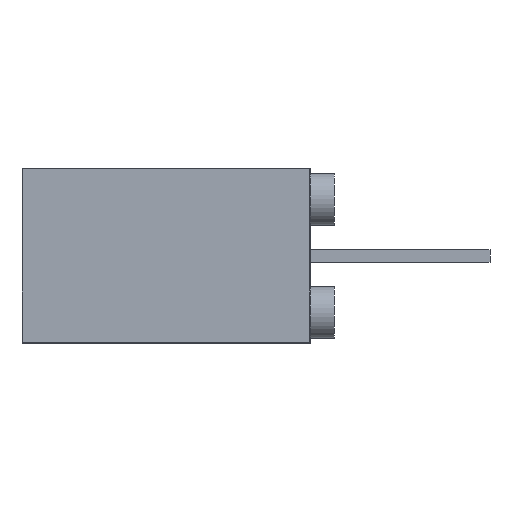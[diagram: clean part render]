
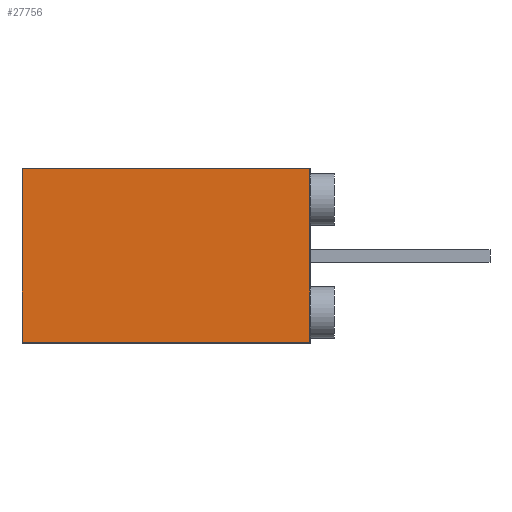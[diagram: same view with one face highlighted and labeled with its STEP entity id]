
A CAD part, left-side view. The second image highlights one B-rep face of the part: STEP entity #27756.
In plain terms, the highlighted planar face has unit normal (-1, 0.004, 0).
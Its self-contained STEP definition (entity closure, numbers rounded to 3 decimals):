
#27684 = VERTEX_POINT ( 'NONE', #37767 ) ;
#27714 = EDGE_CURVE ( 'NONE', #27715, #27684, #37804, .T. ) ;
#27715 = VERTEX_POINT ( 'NONE', #37800 ) ;
#27732 = EDGE_CURVE ( 'NONE', #27861, #27874, #37842, .T. ) ;
#27751 = EDGE_CURVE ( 'NONE', #27874, #27715, #37828, .T. ) ;
#27756 = ADVANCED_FACE ( 'NONE', ( #37822 ), #37824, .T. ) ;
#27760 = ORIENTED_EDGE ( 'NONE', *, *, #27714, .T. ) ;
#27761 = ORIENTED_EDGE ( 'NONE', *, *, #27863, .T. ) ;
#27762 = ORIENTED_EDGE ( 'NONE', *, *, #27732, .T. ) ;
#27764 = ORIENTED_EDGE ( 'NONE', *, *, #27751, .T. ) ;
#27861 = VERTEX_POINT ( 'NONE', #38013 ) ;
#27863 = EDGE_CURVE ( 'NONE', #27684, #27861, #38012, .T. ) ;
#27874 = VERTEX_POINT ( 'NONE', #37993 ) ;
#37767 = CARTESIAN_POINT ( 'NONE',  ( -7.55, 0.002, -1.823 ) ) ;
#37800 = CARTESIAN_POINT ( 'NONE',  ( -7.523, 6.094, -1.823 ) ) ;
#37801 = DIRECTION ( 'NONE',  ( -0.004, -1., 0. ) ) ;
#37802 = VECTOR ( 'NONE', #37801, 1000. ) ;
#37803 = CARTESIAN_POINT ( 'NONE',  ( -7.523, 6.094, -1.823 ) ) ;
#37804 = LINE ( 'NONE', #37803, #37802 ) ;
#37822 = FACE_OUTER_BOUND ( 'NONE', #47646, .T. ) ;
#37823 = AXIS2_PLACEMENT_3D ( 'NONE', #37887, #37886, #37885 ) ;
#37824 = PLANE ( 'NONE',  #37823 ) ;
#37825 = DIRECTION ( 'NONE',  ( 0., 0., -1. ) ) ;
#37826 = VECTOR ( 'NONE', #37825, 1000. ) ;
#37827 = CARTESIAN_POINT ( 'NONE',  ( -7.523, 6.094, -1.823 ) ) ;
#37828 = LINE ( 'NONE', #37827, #37826 ) ;
#37839 = DIRECTION ( 'NONE',  ( 0.004, 1., 0. ) ) ;
#37840 = VECTOR ( 'NONE', #37839, 1000. ) ;
#37841 = CARTESIAN_POINT ( 'NONE',  ( -7.523, 6.094, 1.85 ) ) ;
#37842 = LINE ( 'NONE', #37841, #37840 ) ;
#37885 = DIRECTION ( 'NONE',  ( -0.004, -1., 0. ) ) ;
#37886 = DIRECTION ( 'NONE',  ( -1., 0.004, 0. ) ) ;
#37887 = CARTESIAN_POINT ( 'NONE',  ( -7.55, 0.002, -1.823 ) ) ;
#37993 = CARTESIAN_POINT ( 'NONE',  ( -7.523, 6.094, 1.85 ) ) ;
#38009 = DIRECTION ( 'NONE',  ( 0., 0., 1. ) ) ;
#38010 = VECTOR ( 'NONE', #38009, 1000. ) ;
#38011 = CARTESIAN_POINT ( 'NONE',  ( -7.55, 0.002, -1.823 ) ) ;
#38012 = LINE ( 'NONE', #38011, #38010 ) ;
#38013 = CARTESIAN_POINT ( 'NONE',  ( -7.55, 0.002, 1.85 ) ) ;
#47646 = EDGE_LOOP ( 'NONE', ( #27760, #27761, #27762, #27764 ) ) ;
